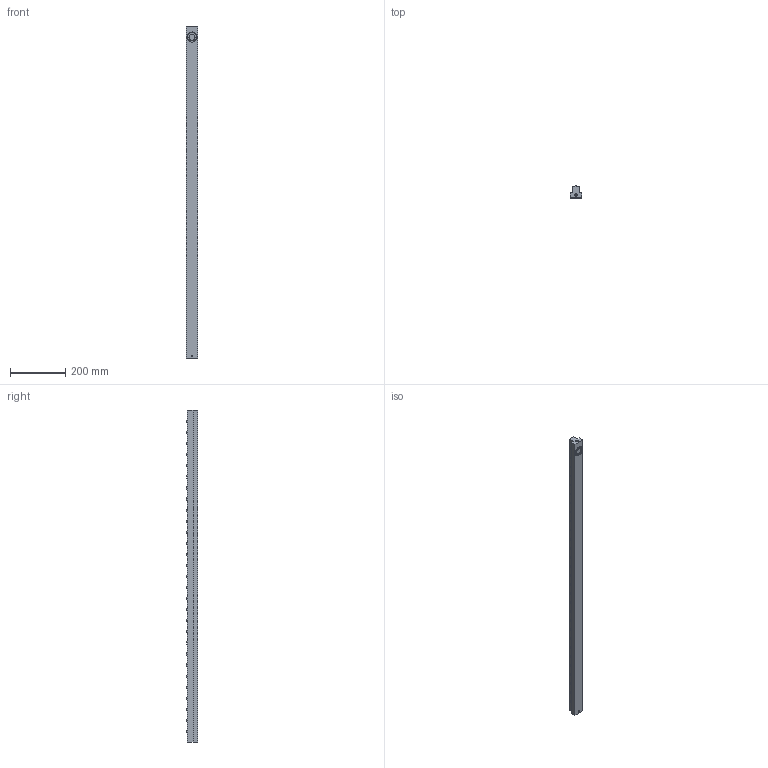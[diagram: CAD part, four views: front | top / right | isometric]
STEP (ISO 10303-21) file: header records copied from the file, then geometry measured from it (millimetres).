
FILE_DESCRIPTION (( 'STEP AP203' ), '1' );
FILE_NAME ('PVL30T-29.STEP', '2016-02-18T04:57:23', ( '' ), ( '' ), 'SwSTEP 2.0', 'SolidWorks 2013', '' );
FILE_SCHEMA (( 'CONFIG_CONTROL_DESIGN' ));
Length unit declared in the file: millimetre
Products named in the file (1): PVL30T-29
Bounding box: 40 x 42 x 1200 mm (x, y, z)
Volume: 1399961.8 mm3; surface area: 211761.2 mm2
Topology: 1 solids, 1 shells, 277 faces, 579 edges, 394 vertices
Faces by surface type: cylinder 138, plane 77, sphere 58, cone 4
Entity records: 7718 total; most frequent: DIRECTION 1535, CARTESIAN_POINT 1249, ORIENTED_EDGE 1154, AXIS2_PLACEMENT_3D 680, EDGE_CURVE 577, CIRCLE 402, VERTEX_POINT 394, EDGE_LOOP 371
